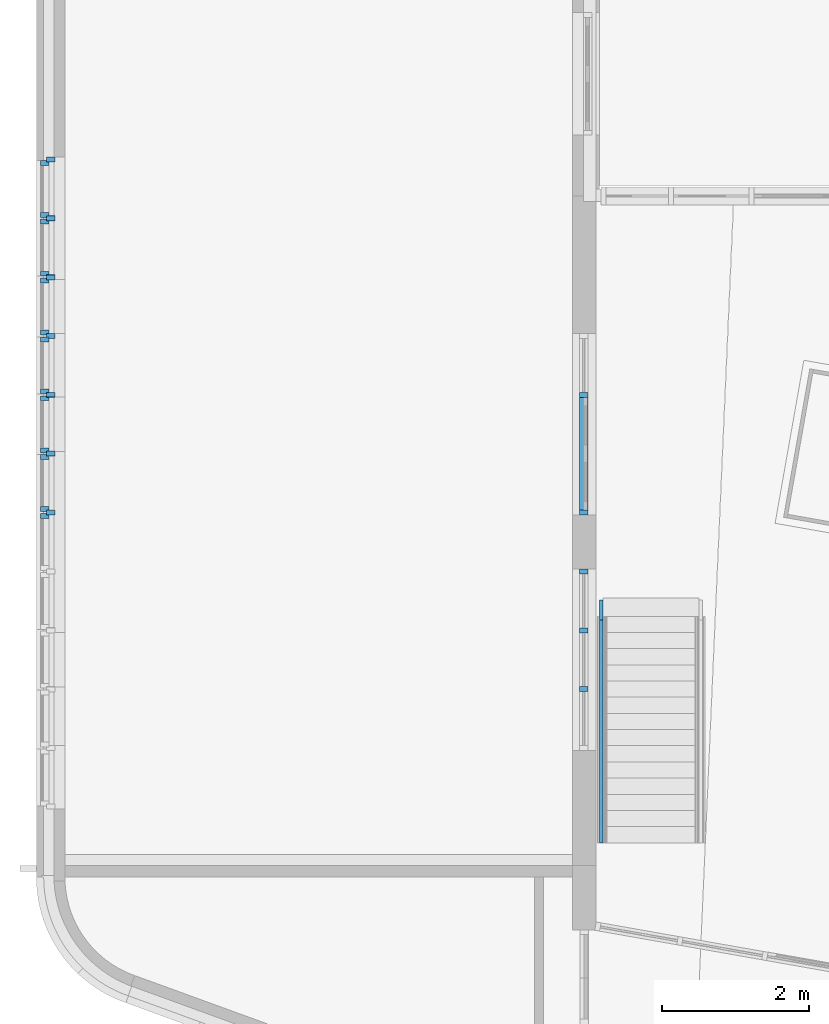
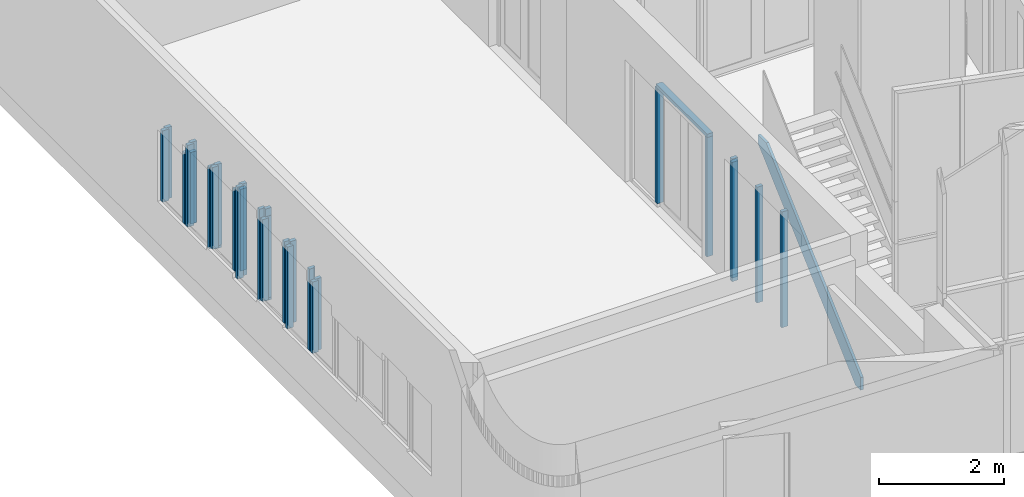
# One storey, part 4 of 21: 32 members, 16 elements without a shape of their own.
"""IFC2X3 building model written with IfcOpenShell, lengths in millimetres."""

from ifc_helpers import new_model, entity, si_unit, converted_unit, derived_unit, direction, frame, frame_2d, origin, origin_2d_with_axis, place, context, subcontext, project, spatial, polyline, rectangle, outline, extrude, source, transform, mapped, material, type_object, type_shapes, element, aggregate, save


model = new_model("IFC2X3")

# Units and contexts
model_context = context("Model", 3, precision=0.01, world=origin(), true_north=direction((6.12303176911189e-17, 1.0)))
body_context = subcontext(model_context, "Body", "Model", "MODEL_VIEW")
ifc_project = project(units=[si_unit("LENGTHUNIT", "METRE", prefix="MILLI"), si_unit("AREAUNIT", "SQUARE_METRE"), si_unit("VOLUMEUNIT", "CUBIC_METRE"), converted_unit("PLANEANGLEUNIT", "DEGREE", entity("IfcRatioMeasure", 0.0174532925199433), si_unit("PLANEANGLEUNIT", "RADIAN"), dimensions=[0, 0, 0, 0, 0, 0, 0]), si_unit("MASSUNIT", "GRAM", prefix="KILO"), derived_unit("MASSDENSITYUNIT", [(si_unit("MASSUNIT", "GRAM", prefix="KILO"), 1), (si_unit("LENGTHUNIT", "METRE"), -3)]), si_unit("TIMEUNIT", "SECOND"), si_unit("FREQUENCYUNIT", "HERTZ"), si_unit("THERMODYNAMICTEMPERATUREUNIT", "DEGREE_CELSIUS"), derived_unit("THERMALTRANSMITTANCEUNIT", [(si_unit("MASSUNIT", "GRAM", prefix="KILO"), 1), (si_unit("THERMODYNAMICTEMPERATUREUNIT", "KELVIN"), -1), (si_unit("TIMEUNIT", "SECOND"), -3)]), derived_unit("VOLUMETRICFLOWRATEUNIT", [(si_unit("LENGTHUNIT", "METRE"), 3), (si_unit("TIMEUNIT", "SECOND"), -1)]), si_unit("ELECTRICCURRENTUNIT", "AMPERE"), si_unit("ELECTRICVOLTAGEUNIT", "VOLT"), si_unit("POWERUNIT", "WATT"), si_unit("FORCEUNIT", "NEWTON", prefix="KILO"), si_unit("ILLUMINANCEUNIT", "LUX"), si_unit("LUMINOUSFLUXUNIT", "LUMEN"), si_unit("LUMINOUSINTENSITYUNIT", "CANDELA"), derived_unit("USERDEFINED", [(si_unit("MASSUNIT", "GRAM", prefix="KILO"), -1), (si_unit("LENGTHUNIT", "METRE"), -2), (si_unit("TIMEUNIT", "SECOND"), 3), (si_unit("LUMINOUSFLUXUNIT", "LUMEN"), 1)]), derived_unit("LINEARVELOCITYUNIT", [(si_unit("LENGTHUNIT", "METRE"), 1), (si_unit("TIMEUNIT", "SECOND"), -1)]), si_unit("PRESSUREUNIT", "PASCAL"), derived_unit("USERDEFINED", [(si_unit("LENGTHUNIT", "METRE"), -2), (si_unit("MASSUNIT", "GRAM", prefix="KILO"), 1), (si_unit("TIMEUNIT", "SECOND"), -2)])], contexts=[model_context])

# Site, building, storey
site_placement = place(None, origin())
site = spatial("IfcSite", under=ifc_project, at=site_placement, Name="<Kadaster Gemeente>;<Kadaster nummer>;<Kadaster sectie>", CompositionType="ELEMENT")
building_placement = place(site_placement, origin())
building = spatial("IfcBuilding", under=site, at=building_placement, Name="JRCZ Middelburg", CompositionType="ELEMENT")
storey_placement = place(building_placement, origin())
storey = spatial("IfcBuildingStorey", under=building, at=storey_placement, Name="00 begane grond", CompositionType="ELEMENT", Elevation=0.0)

# Stair, member
stair_placement = place(storey_placement, origin())
stair = element("IfcStair", 1, at=stair_placement, inside=storey, Name="Assembled Stair:Stair", ObjectType="Assembled Stair:RBM_ST_houten trap", ShapeType="NOTDEFINED")
ifc_material_1 = material(Name="traphout")
member_type_1 = type_object("IfcMemberType", Name="Stringer:RBM_trapboom hout_300x50", PredefinedType="STRINGER")
member_1_placement = place(stair_placement, origin())
member_1 = element("IfcMember", 2, at=member_1_placement, type_object=member_type_1, material=ifc_material_1, Name="Assembled Stair:Stair:1742392 Stringer 1", ObjectType="Stringer:RBM_trapboom hout_300x50", context=body_context, shape_type="SweptSolid", body=[
    extrude(outline(polyline([(-1634.54613854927, -1514.04896495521), (-1457.9166916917, -1514.04896495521), (1665.45386145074, 1325.37881062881), (1665.45386145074, 1485.95103504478), (1396.10124588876, 1485.95103504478), (-1634.54613854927, -1269.18295080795), (-1634.54613854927, -1514.04896495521)])), frame((17418.0, 11945.153090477, 1514.04896495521), z_axis=(1.0, 0.0, 0.0), x_axis=(0.0, 1.0, 0.0)), (0.0, 0.0, 1.0), 49.9999999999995),
])
aggregate(stair, [member_1])

# Curtain wall, members
curtain_wall_type_1 = type_object("IfcCurtainWallType", Name="Curtain Wall:NLRS_32_CW_067x114", PredefinedType="NOTDEFINED")
curtain_wall_1_placement = place(storey_placement, origin())
curtain_wall_1 = element("IfcCurtainWall", 3, at=curtain_wall_1_placement, inside=storey, type_object=curtain_wall_type_1, Name="Curtain Wall:NLRS_32_CW_067x114", ObjectType="Curtain Wall:NLRS_32_CW_067x114")
ifc_material_2 = material(Name="RBM_i2_binnenkozijn")
member_type_2 = type_object("IfcMemberType", Name="32_CWM_067x114", PredefinedType="MEMBER")
shared_shape_1 = source(origin(), body_context, "Body", "SweptSolid", [
    extrude(rectangle(XDim=113.999999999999, YDim=67.0, at=origin_2d_with_axis()), frame((-33.5, 0.0, -2400.0), z_axis=(0.0, 0.0, 1.0), x_axis=(0.0, -1.0, 0.0)), (0.0, 0.0, 1.0), 2400.0),
])
type_shapes(member_type_2, [shared_shape_1])
member_2_placement = place(storey_placement, frame((17203.0, 14033.4999996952, 0.0), z_axis=(0.0, 0.0, -1.0), x_axis=(0.0, 1.0, 0.0)))
member_2 = element("IfcMember", 4, at=member_2_placement, type_object=member_type_2, material=ifc_material_2, Name="Rectangular Mullion:32_CWM_067x114", ObjectType="Rectangular Mullion:32_CWM_067x114", context=body_context, shape_type="MappedRepresentation", body=[
    mapped(shared_shape_1, transform((0.0, 0.0, 0.0), scale=1.0)),
])
member_type_3 = type_object("IfcMemberType", Name="32_CWM_067x114", PredefinedType="MEMBER")
shared_shape_2 = source(origin(), body_context, "Body", "SweptSolid", [
    extrude(rectangle(XDim=113.999999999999, YDim=67.0, at=origin_2d_with_axis()), frame((0.0, 0.0, -2266.0), z_axis=(0.0, 0.0, 1.0), x_axis=(0.0, -1.0, 0.0)), (0.0, 0.0, 1.0), 2266.0),
])
type_shapes(member_type_3, [shared_shape_2])
member_3_placement = place(storey_placement, frame((17203.0, 12400.0, 67.0), z_axis=(0.0, 0.0, -1.0), x_axis=(0.0, 1.0, 0.0)))
member_3 = element("IfcMember", 5, at=member_3_placement, type_object=member_type_3, material=ifc_material_2, Name="Rectangular Mullion:32_CWM_067x114", ObjectType="Rectangular Mullion:32_CWM_067x114", context=body_context, shape_type="MappedRepresentation", body=[
    mapped(shared_shape_2, transform((0.0, 0.0, 0.0), scale=1.0)),
])
member_4_placement = place(storey_placement, frame((17203.0, 13200.0, 67.0), z_axis=(0.0, 0.0, -1.0), x_axis=(0.0, 1.0, 0.0)))
member_4 = element("IfcMember", 6, at=member_4_placement, type_object=member_type_3, material=ifc_material_2, Name="Rectangular Mullion:32_CWM_067x114", ObjectType="Rectangular Mullion:32_CWM_067x114", context=body_context, shape_type="MappedRepresentation", body=[
    mapped(shared_shape_2, transform((0.0, 0.0, 0.0), scale=1.0)),
])
member_5_placement = place(storey_placement, frame((17203.0, 14000.0, 67.0), z_axis=(0.0, 0.0, -1.0), x_axis=(0.0, 1.0, 0.0)))
member_5 = element("IfcMember", 7, at=member_5_placement, type_object=member_type_3, material=ifc_material_2, Name="Rectangular Mullion:32_CWM_067x114", ObjectType="Rectangular Mullion:32_CWM_067x114", context=body_context, shape_type="MappedRepresentation", body=[
    mapped(shared_shape_2, transform((0.0, 0.0, 0.0), scale=1.0)),
])
aggregate(curtain_wall_1, [member_2, member_3, member_4, member_5])

curtain_wall_2_placement = place(storey_placement, origin())
curtain_wall_2 = element("IfcCurtainWall", 8, at=curtain_wall_2_placement, inside=storey, type_object=curtain_wall_type_1, Name="Curtain Wall:NLRS_32_CW_067x114", ObjectType="Curtain Wall:NLRS_32_CW_067x114")
member_type_4 = type_object("IfcMemberType", Name="32_CWM_067x114", PredefinedType="MEMBER")
shared_shape_3 = source(origin(), body_context, "Body", "SweptSolid", [
    extrude(rectangle(XDim=113.999999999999, YDim=67.0, at=origin_2d_with_axis()), frame((-33.5, 0.0, -1633.5000003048), z_axis=(0.0, 0.0, 1.0), x_axis=(0.0, -1.0, 0.0)), (0.0, 0.0, 1.0), 1633.5000003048),
])
type_shapes(member_type_4, [shared_shape_3])
member_6_placement = place(storey_placement, frame((17203.0, 16400.0, 2400.0), z_axis=(0.0, 1.0, 0.0), x_axis=(0.0, 0.0, 1.0)))
member_6 = element("IfcMember", 9, at=member_6_placement, type_object=member_type_4, material=ifc_material_2, Name="Rectangular Mullion:32_CWM_067x114", ObjectType="Rectangular Mullion:32_CWM_067x114", context=body_context, shape_type="MappedRepresentation", body=[
    mapped(shared_shape_3, transform((0.0, 0.0, 0.0), scale=1.0)),
])
member_type_5 = type_object("IfcMemberType", Name="32_CWM_067x114", PredefinedType="MEMBER")
shared_shape_4 = source(origin(), body_context, "Body", "SweptSolid", [
    extrude(rectangle(XDim=113.999999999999, YDim=67.0, at=origin_2d_with_axis()), frame((-33.5, 0.0, -2333.0), z_axis=(0.0, 0.0, 1.0), x_axis=(0.0, -1.0, 0.0)), (0.0, 0.0, 1.0), 2333.0),
])
type_shapes(member_type_5, [shared_shape_4])
member_7_placement = place(storey_placement, frame((17203.0, 14766.4999996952, 2333.0), z_axis=(0.0, 0.0, 1.0), x_axis=(0.0, -1.0, 0.0)))
member_7 = element("IfcMember", 10, at=member_7_placement, type_object=member_type_5, material=ifc_material_2, Name="Rectangular Mullion:32_CWM_067x114", ObjectType="Rectangular Mullion:32_CWM_067x114", context=body_context, shape_type="MappedRepresentation", body=[
    mapped(shared_shape_4, transform((0.0, 0.0, 0.0), scale=1.0)),
])
member_type_6 = type_object("IfcMemberType", Name="32_CWM_067x114", PredefinedType="MEMBER")
shared_shape_5 = source(origin(), body_context, "Body", "SweptSolid", [
    extrude(rectangle(XDim=113.999999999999, YDim=67.0, at=origin_2d_with_axis()), frame((0.0, 0.0, -2266.0), z_axis=(0.0, 0.0, 1.0), x_axis=(0.0, -1.0, 0.0)), (0.0, 0.0, 1.0), 2266.0),
])
type_shapes(member_type_6, [shared_shape_5])
member_8_placement = place(storey_placement, frame((17203.0, 16400.0, 67.0), z_axis=(0.0, 0.0, -1.0), x_axis=(0.0, 1.0, 0.0)))
member_8 = element("IfcMember", 11, at=member_8_placement, type_object=member_type_6, material=ifc_material_2, Name="Rectangular Mullion:32_CWM_067x114", ObjectType="Rectangular Mullion:32_CWM_067x114", context=body_context, shape_type="MappedRepresentation", body=[
    mapped(shared_shape_5, transform((0.0, 0.0, 0.0), scale=1.0)),
])
aggregate(curtain_wall_2, [member_6, member_7, member_8])

curtain_wall_type_2 = type_object("IfcCurtainWallType", Name="Curtain Wall:NLRS_31_CW_Ontwerpkozijn 067x114 2", PredefinedType="NOTDEFINED")
curtain_wall_3_placement = place(storey_placement, origin())
curtain_wall_3 = element("IfcCurtainWall", 12, at=curtain_wall_3_placement, inside=storey, type_object=curtain_wall_type_2, Name="Curtain Wall:NLRS_31_CW_Ontwerpkozijn 067x114 2", ObjectType="Curtain Wall:NLRS_31_CW_Ontwerpkozijn 067x114 2")
ifc_material_3 = material(Name="RBM_a_kozijn")
member_type_7 = type_object("IfcMemberType", Name="31_CWM_067x114", PredefinedType="MEMBER")
shared_shape_6 = source(origin(), body_context, "Body", "SweptSolid", [
    extrude(outline(polyline([(-37.0, -65.3333333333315), (30.0, -65.3333333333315), (30.0, 16.6666666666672), (7.0, 16.6666666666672), (7.0, 48.6666666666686), (-37.0, 48.6666666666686), (-37.0, -65.3333333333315)])), frame((9882.3333333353, 14842.4999999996, 700.0), z_axis=(0.0, 0.0, 1.0), x_axis=(0.0, -1.0, 0.0)), (0.0, 0.0, 1.0), 1600.0),
])
type_shapes(member_type_7, [shared_shape_6])
member_9_placement = place(storey_placement, origin())
member_9 = element("IfcMember", 13, at=member_9_placement, type_object=member_type_7, material=ifc_material_3, Name="Rectangular Mullion:31_CWM_067x114", ObjectType="Rectangular Mullion:31_CWM_067x114", context=body_context, shape_type="MappedRepresentation", body=[
    mapped(shared_shape_6, transform((0.0, 0.0, 0.0), scale=1.0)),
])
member_type_8 = type_object("IfcMemberType", Name="31_CWM_067x114", PredefinedType="MEMBER")
shared_shape_7 = source(origin(), body_context, "Body", "SweptSolid", [
    extrude(outline(polyline([(-30.0, -65.3333333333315), (37.0, -65.3333333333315), (37.0, 48.6666666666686), (-7.0, 48.6666666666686), (-7.0, 16.6666666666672), (-30.0, 16.6666666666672), (-30.0, -65.3333333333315)])), frame((9882.33333333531, 15557.4999999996, 700.0), z_axis=(0.0, 0.0, 1.0), x_axis=(0.0, -1.0, 0.0)), (0.0, 0.0, 1.0), 1600.0),
])
type_shapes(member_type_8, [shared_shape_7])
member_10_placement = place(storey_placement, origin())
member_10 = element("IfcMember", 14, at=member_10_placement, type_object=member_type_8, material=ifc_material_3, Name="Rectangular Mullion:31_CWM_067x114", ObjectType="Rectangular Mullion:31_CWM_067x114", context=body_context, shape_type="MappedRepresentation", body=[
    mapped(shared_shape_7, transform((0.0, 0.0, 0.0), scale=1.0)),
])
aggregate(curtain_wall_3, [member_9, member_10])

# Curtain wall, member
curtain_wall_type_3 = type_object("IfcCurtainWallType", Name="Curtain Wall:NLRS_31_CW_hsb rek 63x196mm h.o.h. 800mm", PredefinedType="NOTDEFINED")
curtain_wall_4_placement = place(storey_placement, origin())
curtain_wall_4 = element("IfcCurtainWall", 15, at=curtain_wall_4_placement, inside=storey, type_object=curtain_wall_type_3, Name="Curtain Wall:NLRS_31_CW_hsb rek 63x196mm h.o.h. 800mm", ObjectType="Curtain Wall:NLRS_31_CW_hsb rek 63x196mm h.o.h. 800mm")
member_type_9 = type_object("IfcMemberType", Name="32_CWM_067x114", PredefinedType="MEMBER")
shared_shape_8 = source(origin(), body_context, "Body", "SweptSolid", [
    extrude(rectangle(XDim=66.9999999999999, YDim=114.0, at=frame_2d((1.08357767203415e-12, 1.08002495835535e-12), x_axis=(1.0, 0.0))), frame((9956.0, 14798.0, 700.0), z_axis=(0.0, 0.0, 1.0), x_axis=(0.0, -1.0, 0.0)), (0.0, 0.0, 1.0), 1400.0),
])
type_shapes(member_type_9, [shared_shape_8])
member_11_placement = place(storey_placement, origin())
member_11 = element("IfcMember", 16, at=member_11_placement, type_object=member_type_9, material=ifc_material_2, Name="Rectangular Mullion:32_CWM_067x114", ObjectType="Rectangular Mullion:32_CWM_067x114", context=body_context, shape_type="MappedRepresentation", body=[
    mapped(shared_shape_8, transform((0.0, 0.0, 0.0), scale=1.0)),
])
aggregate(curtain_wall_4, [member_11])

curtain_wall_5_placement = place(storey_placement, origin())
curtain_wall_5 = element("IfcCurtainWall", 17, at=curtain_wall_5_placement, inside=storey, type_object=curtain_wall_type_2, Name="Curtain Wall:NLRS_31_CW_Ontwerpkozijn 067x114 2", ObjectType="Curtain Wall:NLRS_31_CW_Ontwerpkozijn 067x114 2")
member_type_10 = type_object("IfcMemberType", Name="31_CWM_067x114", PredefinedType="MEMBER")
shared_shape_9 = source(origin(), body_context, "Body", "SweptSolid", [
    extrude(outline(polyline([(-30.0, -65.3333333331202), (37.0, -65.3333333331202), (37.0, 48.6666666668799), (-7.0, 48.6666666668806), (-7.0, 16.6666666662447), (-30.0, 16.6666666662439), (-30.0, -65.3333333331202)])), frame((9882.33333333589, 14757.4999999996, 700.0), z_axis=(0.0, 0.0, 1.0), x_axis=(0.0, -1.0, 0.0)), (0.0, 0.0, 1.0), 1400.0),
])
type_shapes(member_type_10, [shared_shape_9])
member_12_placement = place(storey_placement, origin())
member_12 = element("IfcMember", 18, at=member_12_placement, type_object=member_type_10, material=ifc_material_3, Name="Rectangular Mullion:31_CWM_067x114", ObjectType="Rectangular Mullion:31_CWM_067x114", context=body_context, shape_type="MappedRepresentation", body=[
    mapped(shared_shape_9, transform((0.0, 0.0, 0.0), scale=1.0)),
])
aggregate(curtain_wall_5, [member_12])

# Curtain wall, members
curtain_wall_6_placement = place(storey_placement, origin())
curtain_wall_6 = element("IfcCurtainWall", 19, at=curtain_wall_6_placement, inside=storey, type_object=curtain_wall_type_3, Name="Curtain Wall:NLRS_31_CW_hsb rek 63x196mm h.o.h. 800mm", ObjectType="Curtain Wall:NLRS_31_CW_hsb rek 63x196mm h.o.h. 800mm")
member_type_11 = type_object("IfcMemberType", Name="32_CWM_067x114", PredefinedType="MEMBER")
shared_shape_10 = source(origin(), body_context, "Body", "SweptSolid", [
    extrude(rectangle(XDim=66.9999999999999, YDim=114.0, at=frame_2d((1.08002495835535e-12, 0.0), x_axis=(1.0, 0.0))), frame((9956.0, 16398.0, 750.0), z_axis=(0.0, 0.0, 1.0), x_axis=(0.0, -1.0, 0.0)), (0.0, 0.0, 1.0), 1600.0),
])
type_shapes(member_type_11, [shared_shape_10])
member_13_placement = place(storey_placement, origin())
member_13 = element("IfcMember", 20, at=member_13_placement, type_object=member_type_11, material=ifc_material_2, Name="Rectangular Mullion:32_CWM_067x114", ObjectType="Rectangular Mullion:32_CWM_067x114", context=body_context, shape_type="MappedRepresentation", body=[
    mapped(shared_shape_10, transform((0.0, 0.0, 0.0), scale=1.0)),
])
member_type_12 = type_object("IfcMemberType", Name="32_CWM_067x114", PredefinedType="MEMBER")
shared_shape_11 = source(origin(), body_context, "Body", "SweptSolid", [
    extrude(rectangle(XDim=67.0000000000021, YDim=114.0, at=frame_2d((-1.08357767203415e-12, 0.0), x_axis=(1.0, 0.0))), frame((9956.0, 15602.0, 750.0), z_axis=(0.0, 0.0, 1.0), x_axis=(0.0, -1.0, 0.0)), (0.0, 0.0, 1.0), 1600.0),
])
type_shapes(member_type_12, [shared_shape_11])
member_14_placement = place(storey_placement, origin())
member_14 = element("IfcMember", 21, at=member_14_placement, type_object=member_type_12, material=ifc_material_2, Name="Rectangular Mullion:32_CWM_067x114", ObjectType="Rectangular Mullion:32_CWM_067x114", context=body_context, shape_type="MappedRepresentation", body=[
    mapped(shared_shape_11, transform((0.0, 0.0, 0.0), scale=1.0)),
])
aggregate(curtain_wall_6, [member_13, member_14])

curtain_wall_7_placement = place(storey_placement, origin())
curtain_wall_7 = element("IfcCurtainWall", 22, at=curtain_wall_7_placement, inside=storey, type_object=curtain_wall_type_2, Name="Curtain Wall:NLRS_31_CW_Ontwerpkozijn 067x114 2", ObjectType="Curtain Wall:NLRS_31_CW_Ontwerpkozijn 067x114 2")
member_type_13 = type_object("IfcMemberType", Name="31_CWM_067x114", PredefinedType="MEMBER")
shared_shape_12 = source(origin(), body_context, "Body", "SweptSolid", [
    extrude(outline(polyline([(-37.0, -65.333333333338), (30.0, -65.333333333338), (30.0, 16.666666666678), (7.0, 16.666666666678), (7.0, 48.6666666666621), (-37.0, 48.6666666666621), (-37.0, -65.333333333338)])), frame((9882.33333333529, 15642.4999999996, 750.0), z_axis=(0.0, 0.0, 1.0), x_axis=(0.0, -1.0, 0.0)), (0.0, 0.0, 1.0), 1600.0),
])
type_shapes(member_type_13, [shared_shape_12])
member_15_placement = place(storey_placement, origin())
member_15 = element("IfcMember", 23, at=member_15_placement, type_object=member_type_13, material=ifc_material_3, Name="Rectangular Mullion:31_CWM_067x114", ObjectType="Rectangular Mullion:31_CWM_067x114", context=body_context, shape_type="MappedRepresentation", body=[
    mapped(shared_shape_12, transform((0.0, 0.0, 0.0), scale=1.0)),
])
member_type_14 = type_object("IfcMemberType", Name="31_CWM_067x114", PredefinedType="MEMBER")
shared_shape_13 = source(origin(), body_context, "Body", "SweptSolid", [
    extrude(outline(polyline([(-30.0, -65.333333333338), (37.0, -65.333333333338), (37.0, 48.6666666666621), (-7.0, 48.6666666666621), (-7.0, 16.666666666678), (-30.0, 16.666666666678), (-30.0, -65.333333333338)])), frame((9882.3333333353, 16357.4999999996, 750.0), z_axis=(0.0, 0.0, 1.0), x_axis=(0.0, -1.0, 0.0)), (0.0, 0.0, 1.0), 1600.0),
])
type_shapes(member_type_14, [shared_shape_13])
member_16_placement = place(storey_placement, origin())
member_16 = element("IfcMember", 24, at=member_16_placement, type_object=member_type_14, material=ifc_material_3, Name="Rectangular Mullion:31_CWM_067x114", ObjectType="Rectangular Mullion:31_CWM_067x114", context=body_context, shape_type="MappedRepresentation", body=[
    mapped(shared_shape_13, transform((0.0, 0.0, 0.0), scale=1.0)),
])
aggregate(curtain_wall_7, [member_15, member_16])

curtain_wall_8_placement = place(storey_placement, origin())
curtain_wall_8 = element("IfcCurtainWall", 25, at=curtain_wall_8_placement, inside=storey, type_object=curtain_wall_type_3, Name="Curtain Wall:NLRS_31_CW_hsb rek 63x196mm h.o.h. 800mm", ObjectType="Curtain Wall:NLRS_31_CW_hsb rek 63x196mm h.o.h. 800mm")
member_type_15 = type_object("IfcMemberType", Name="32_CWM_067x114", PredefinedType="MEMBER")
shared_shape_14 = source(origin(), body_context, "Body", "SweptSolid", [
    extrude(rectangle(XDim=66.9999999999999, YDim=114.0, at=frame_2d((1.08357767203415e-12, 1.08002495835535e-12), x_axis=(1.0, 0.0))), frame((9956.0, 17198.0, 700.0), z_axis=(0.0, 0.0, 1.0), x_axis=(0.0, -1.0, 0.0)), (0.0, 0.0, 1.0), 1800.0),
])
type_shapes(member_type_15, [shared_shape_14])
member_17_placement = place(storey_placement, origin())
member_17 = element("IfcMember", 26, at=member_17_placement, type_object=member_type_15, material=ifc_material_2, Name="Rectangular Mullion:32_CWM_067x114", ObjectType="Rectangular Mullion:32_CWM_067x114", context=body_context, shape_type="MappedRepresentation", body=[
    mapped(shared_shape_14, transform((0.0, 0.0, 0.0), scale=1.0)),
])
member_type_16 = type_object("IfcMemberType", Name="32_CWM_067x114", PredefinedType="MEMBER")
shared_shape_15 = source(origin(), body_context, "Body", "SweptSolid", [
    extrude(rectangle(XDim=66.9999999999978, YDim=114.0, at=frame_2d((1.08357767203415e-12, 1.08002495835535e-12), x_axis=(1.0, 0.0))), frame((9956.0, 16402.0, 700.0), z_axis=(0.0, 0.0, 1.0), x_axis=(0.0, -1.0, 0.0)), (0.0, 0.0, 1.0), 1800.0),
])
type_shapes(member_type_16, [shared_shape_15])
member_18_placement = place(storey_placement, origin())
member_18 = element("IfcMember", 27, at=member_18_placement, type_object=member_type_16, material=ifc_material_2, Name="Rectangular Mullion:32_CWM_067x114", ObjectType="Rectangular Mullion:32_CWM_067x114", context=body_context, shape_type="MappedRepresentation", body=[
    mapped(shared_shape_15, transform((0.0, 0.0, 0.0), scale=1.0)),
])
aggregate(curtain_wall_8, [member_17, member_18])

curtain_wall_9_placement = place(storey_placement, origin())
curtain_wall_9 = element("IfcCurtainWall", 28, at=curtain_wall_9_placement, inside=storey, type_object=curtain_wall_type_2, Name="Curtain Wall:NLRS_31_CW_Ontwerpkozijn 067x114 2", ObjectType="Curtain Wall:NLRS_31_CW_Ontwerpkozijn 067x114 2")
member_type_17 = type_object("IfcMemberType", Name="31_CWM_067x114", PredefinedType="MEMBER")
shared_shape_16 = source(origin(), body_context, "Body", "SweptSolid", [
    extrude(rectangle(XDim=66.9999999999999, YDim=114.0, at=frame_2d((0.0, 1.08002495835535e-12), x_axis=(1.0, 0.0))), frame((9874.0, 16446.0, 700.0), z_axis=(0.0, 0.0, 1.0), x_axis=(0.0, -1.0, 0.0)), (0.0, 0.0, 1.0), 1800.0),
])
type_shapes(member_type_17, [shared_shape_16])
member_19_placement = place(storey_placement, origin())
member_19 = element("IfcMember", 29, at=member_19_placement, type_object=member_type_17, material=ifc_material_3, Name="Rectangular Mullion:31_CWM_067x114", ObjectType="Rectangular Mullion:31_CWM_067x114", context=body_context, shape_type="MappedRepresentation", body=[
    mapped(shared_shape_16, transform((0.0, 0.0, 0.0), scale=1.0)),
])
member_type_18 = type_object("IfcMemberType", Name="31_CWM_067x114", PredefinedType="MEMBER")
shared_shape_17 = source(origin(), body_context, "Body", "SweptSolid", [
    extrude(rectangle(XDim=66.9999999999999, YDim=114.0, at=frame_2d((0.0, 1.08002495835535e-12), x_axis=(1.0, 0.0))), frame((9874.0, 17154.0, 700.0), z_axis=(0.0, 0.0, 1.0), x_axis=(0.0, -1.0, 0.0)), (0.0, 0.0, 1.0), 1800.0),
])
type_shapes(member_type_18, [shared_shape_17])
member_20_placement = place(storey_placement, origin())
member_20 = element("IfcMember", 30, at=member_20_placement, type_object=member_type_18, material=ifc_material_3, Name="Rectangular Mullion:31_CWM_067x114", ObjectType="Rectangular Mullion:31_CWM_067x114", context=body_context, shape_type="MappedRepresentation", body=[
    mapped(shared_shape_17, transform((0.0, 0.0, 0.0), scale=1.0)),
])
aggregate(curtain_wall_9, [member_19, member_20])

curtain_wall_10_placement = place(storey_placement, origin())
curtain_wall_10 = element("IfcCurtainWall", 31, at=curtain_wall_10_placement, inside=storey, type_object=curtain_wall_type_3, Name="Curtain Wall:NLRS_31_CW_hsb rek 63x196mm h.o.h. 800mm", ObjectType="Curtain Wall:NLRS_31_CW_hsb rek 63x196mm h.o.h. 800mm")
member_type_19 = type_object("IfcMemberType", Name="32_CWM_067x114", PredefinedType="MEMBER")
shared_shape_18 = source(origin(), body_context, "Body", "SweptSolid", [
    extrude(rectangle(XDim=66.9999999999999, YDim=114.0, at=frame_2d((1.08002495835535e-12, 0.0), x_axis=(1.0, 0.0))), frame((9956.0, 18798.0, 750.0), z_axis=(0.0, 0.0, 1.0), x_axis=(0.0, -1.0, 0.0)), (0.0, 0.0, 1.0), 1600.0),
])
type_shapes(member_type_19, [shared_shape_18])
member_21_placement = place(storey_placement, origin())
member_21 = element("IfcMember", 32, at=member_21_placement, type_object=member_type_19, material=ifc_material_2, Name="Rectangular Mullion:32_CWM_067x114", ObjectType="Rectangular Mullion:32_CWM_067x114", context=body_context, shape_type="MappedRepresentation", body=[
    mapped(shared_shape_18, transform((0.0, 0.0, 0.0), scale=1.0)),
])
member_type_20 = type_object("IfcMemberType", Name="32_CWM_067x114", PredefinedType="MEMBER")
shared_shape_19 = source(origin(), body_context, "Body", "SweptSolid", [
    extrude(rectangle(XDim=67.0000000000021, YDim=114.0, at=frame_2d((-1.08357767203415e-12, 0.0), x_axis=(1.0, 0.0))), frame((9956.0, 18002.0, 750.0), z_axis=(0.0, 0.0, 1.0), x_axis=(0.0, -1.0, 0.0)), (0.0, 0.0, 1.0), 1600.0),
])
type_shapes(member_type_20, [shared_shape_19])
member_22_placement = place(storey_placement, origin())
member_22 = element("IfcMember", 33, at=member_22_placement, type_object=member_type_20, material=ifc_material_2, Name="Rectangular Mullion:32_CWM_067x114", ObjectType="Rectangular Mullion:32_CWM_067x114", context=body_context, shape_type="MappedRepresentation", body=[
    mapped(shared_shape_19, transform((0.0, 0.0, 0.0), scale=1.0)),
])
aggregate(curtain_wall_10, [member_21, member_22])

curtain_wall_11_placement = place(storey_placement, origin())
curtain_wall_11 = element("IfcCurtainWall", 34, at=curtain_wall_11_placement, inside=storey, type_object=curtain_wall_type_2, Name="Curtain Wall:NLRS_31_CW_Ontwerpkozijn 067x114 2", ObjectType="Curtain Wall:NLRS_31_CW_Ontwerpkozijn 067x114 2")
member_type_21 = type_object("IfcMemberType", Name="31_CWM_067x114", PredefinedType="MEMBER")
shared_shape_20 = source(origin(), body_context, "Body", "SweptSolid", [
    extrude(outline(polyline([(-37.0, -65.333333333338), (30.0, -65.333333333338), (30.0, 16.666666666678), (7.0, 16.666666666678), (7.0, 48.6666666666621), (-37.0, 48.6666666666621), (-37.0, -65.333333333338)])), frame((9882.33333333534, 18042.4999999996, 750.0), z_axis=(0.0, 0.0, 1.0), x_axis=(0.0, -1.0, 0.0)), (0.0, 0.0, 1.0), 1600.0),
])
type_shapes(member_type_21, [shared_shape_20])
member_23_placement = place(storey_placement, origin())
member_23 = element("IfcMember", 35, at=member_23_placement, type_object=member_type_21, material=ifc_material_3, Name="Rectangular Mullion:31_CWM_067x114", ObjectType="Rectangular Mullion:31_CWM_067x114", context=body_context, shape_type="MappedRepresentation", body=[
    mapped(shared_shape_20, transform((0.0, 0.0, 0.0), scale=1.0)),
])
member_type_22 = type_object("IfcMemberType", Name="31_CWM_067x114", PredefinedType="MEMBER")
shared_shape_21 = source(origin(), body_context, "Body", "SweptSolid", [
    extrude(outline(polyline([(-30.0, -65.333333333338), (37.0, -65.333333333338), (37.0, 48.6666666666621), (-7.0, 48.6666666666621), (-7.0, 16.666666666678), (-30.0, 16.666666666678), (-30.0, -65.333333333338)])), frame((9882.33333333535, 18757.4999999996, 750.0), z_axis=(0.0, 0.0, 1.0), x_axis=(0.0, -1.0, 0.0)), (0.0, 0.0, 1.0), 1600.0),
])
type_shapes(member_type_22, [shared_shape_21])
member_24_placement = place(storey_placement, origin())
member_24 = element("IfcMember", 36, at=member_24_placement, type_object=member_type_22, material=ifc_material_3, Name="Rectangular Mullion:31_CWM_067x114", ObjectType="Rectangular Mullion:31_CWM_067x114", context=body_context, shape_type="MappedRepresentation", body=[
    mapped(shared_shape_21, transform((0.0, 0.0, 0.0), scale=1.0)),
])
aggregate(curtain_wall_11, [member_23, member_24])

curtain_wall_12_placement = place(storey_placement, origin())
curtain_wall_12 = element("IfcCurtainWall", 37, at=curtain_wall_12_placement, inside=storey, type_object=curtain_wall_type_3, Name="Curtain Wall:NLRS_31_CW_hsb rek 63x196mm h.o.h. 800mm", ObjectType="Curtain Wall:NLRS_31_CW_hsb rek 63x196mm h.o.h. 800mm")
member_type_23 = type_object("IfcMemberType", Name="32_CWM_067x114", PredefinedType="MEMBER")
shared_shape_22 = source(origin(), body_context, "Body", "SweptSolid", [
    extrude(rectangle(XDim=67.0000000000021, YDim=114.0, at=frame_2d((4.33075797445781e-12, 1.08002495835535e-12), x_axis=(1.0, 0.0))), frame((9956.0, 19598.0, 750.0), z_axis=(0.0, 0.0, 1.0), x_axis=(0.0, -1.0, 0.0)), (0.0, 0.0, 1.0), 1400.0),
])
type_shapes(member_type_23, [shared_shape_22])
member_25_placement = place(storey_placement, origin())
member_25 = element("IfcMember", 38, at=member_25_placement, type_object=member_type_23, material=ifc_material_2, Name="Rectangular Mullion:32_CWM_067x114", ObjectType="Rectangular Mullion:32_CWM_067x114", context=body_context, shape_type="MappedRepresentation", body=[
    mapped(shared_shape_22, transform((0.0, 0.0, 0.0), scale=1.0)),
])
member_type_24 = type_object("IfcMemberType", Name="32_CWM_067x114", PredefinedType="MEMBER")
shared_shape_23 = source(origin(), body_context, "Body", "SweptSolid", [
    extrude(rectangle(XDim=66.9999999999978, YDim=114.0, at=frame_2d((1.08357767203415e-12, 1.08002495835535e-12), x_axis=(1.0, 0.0))), frame((9956.0, 18802.0, 750.0), z_axis=(0.0, 0.0, 1.0), x_axis=(0.0, -1.0, 0.0)), (0.0, 0.0, 1.0), 1400.0),
])
type_shapes(member_type_24, [shared_shape_23])
member_26_placement = place(storey_placement, origin())
member_26 = element("IfcMember", 39, at=member_26_placement, type_object=member_type_24, material=ifc_material_2, Name="Rectangular Mullion:32_CWM_067x114", ObjectType="Rectangular Mullion:32_CWM_067x114", context=body_context, shape_type="MappedRepresentation", body=[
    mapped(shared_shape_23, transform((0.0, 0.0, 0.0), scale=1.0)),
])
aggregate(curtain_wall_12, [member_25, member_26])

curtain_wall_13_placement = place(storey_placement, origin())
curtain_wall_13 = element("IfcCurtainWall", 40, at=curtain_wall_13_placement, inside=storey, type_object=curtain_wall_type_2, Name="Curtain Wall:NLRS_31_CW_Ontwerpkozijn 067x114 2", ObjectType="Curtain Wall:NLRS_31_CW_Ontwerpkozijn 067x114 2")
member_type_25 = type_object("IfcMemberType", Name="31_CWM_067x114", PredefinedType="MEMBER")
shared_shape_24 = source(origin(), body_context, "Body", "SweptSolid", [
    extrude(rectangle(XDim=66.9999999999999, YDim=114.0, at=frame_2d((1.08357767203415e-12, -1.08002495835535e-12), x_axis=(1.0, 0.0))), frame((9874.0, 18846.0, 750.0), z_axis=(0.0, 0.0, 1.0), x_axis=(0.0, -1.0, 0.0)), (0.0, 0.0, 1.0), 1400.0),
])
type_shapes(member_type_25, [shared_shape_24])
member_27_placement = place(storey_placement, origin())
member_27 = element("IfcMember", 41, at=member_27_placement, type_object=member_type_25, material=ifc_material_3, Name="Rectangular Mullion:31_CWM_067x114", ObjectType="Rectangular Mullion:31_CWM_067x114", context=body_context, shape_type="MappedRepresentation", body=[
    mapped(shared_shape_24, transform((0.0, 0.0, 0.0), scale=1.0)),
])
member_type_26 = type_object("IfcMemberType", Name="31_CWM_067x114", PredefinedType="MEMBER")
shared_shape_25 = source(origin(), body_context, "Body", "SweptSolid", [
    extrude(rectangle(XDim=67.0000000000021, YDim=114.0, at=frame_2d((-2.16360263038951e-12, 1.08002495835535e-12), x_axis=(1.0, 0.0))), frame((9874.0, 19554.0, 750.0), z_axis=(0.0, 0.0, 1.0), x_axis=(0.0, -1.0, 0.0)), (0.0, 0.0, 1.0), 1400.0),
])
type_shapes(member_type_26, [shared_shape_25])
member_28_placement = place(storey_placement, origin())
member_28 = element("IfcMember", 42, at=member_28_placement, type_object=member_type_26, material=ifc_material_3, Name="Rectangular Mullion:31_CWM_067x114", ObjectType="Rectangular Mullion:31_CWM_067x114", context=body_context, shape_type="MappedRepresentation", body=[
    mapped(shared_shape_25, transform((0.0, 0.0, 0.0), scale=1.0)),
])
aggregate(curtain_wall_13, [member_27, member_28])

curtain_wall_14_placement = place(storey_placement, origin())
curtain_wall_14 = element("IfcCurtainWall", 43, at=curtain_wall_14_placement, inside=storey, type_object=curtain_wall_type_3, Name="Curtain Wall:NLRS_31_CW_hsb rek 63x196mm h.o.h. 800mm", ObjectType="Curtain Wall:NLRS_31_CW_hsb rek 63x196mm h.o.h. 800mm")
member_type_27 = type_object("IfcMemberType", Name="32_CWM_067x114", PredefinedType="MEMBER")
shared_shape_26 = source(origin(), body_context, "Body", "SweptSolid", [
    extrude(rectangle(XDim=66.9999999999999, YDim=114.0, at=frame_2d((1.08002495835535e-12, 0.0), x_axis=(1.0, 0.0))), frame((9956.0, 17998.0, 800.0), z_axis=(0.0, 0.0, 1.0), x_axis=(0.0, -1.0, 0.0)), (0.0, 0.0, 1.0), 1600.0),
])
type_shapes(member_type_27, [shared_shape_26])
member_29_placement = place(storey_placement, origin())
member_29 = element("IfcMember", 44, at=member_29_placement, type_object=member_type_27, material=ifc_material_2, Name="Rectangular Mullion:32_CWM_067x114", ObjectType="Rectangular Mullion:32_CWM_067x114", context=body_context, shape_type="MappedRepresentation", body=[
    mapped(shared_shape_26, transform((0.0, 0.0, 0.0), scale=1.0)),
])
member_type_28 = type_object("IfcMemberType", Name="32_CWM_067x114", PredefinedType="MEMBER")
shared_shape_27 = source(origin(), body_context, "Body", "SweptSolid", [
    extrude(rectangle(XDim=67.0000000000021, YDim=114.0, at=frame_2d((-1.08357767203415e-12, 0.0), x_axis=(1.0, 0.0))), frame((9956.0, 17202.0, 800.0), z_axis=(0.0, 0.0, 1.0), x_axis=(0.0, -1.0, 0.0)), (0.0, 0.0, 1.0), 1600.0),
])
type_shapes(member_type_28, [shared_shape_27])
member_30_placement = place(storey_placement, origin())
member_30 = element("IfcMember", 45, at=member_30_placement, type_object=member_type_28, material=ifc_material_2, Name="Rectangular Mullion:32_CWM_067x114", ObjectType="Rectangular Mullion:32_CWM_067x114", context=body_context, shape_type="MappedRepresentation", body=[
    mapped(shared_shape_27, transform((0.0, 0.0, 0.0), scale=1.0)),
])
aggregate(curtain_wall_14, [member_29, member_30])

curtain_wall_15_placement = place(storey_placement, origin())
curtain_wall_15 = element("IfcCurtainWall", 46, at=curtain_wall_15_placement, inside=storey, type_object=curtain_wall_type_2, Name="Curtain Wall:NLRS_31_CW_Ontwerpkozijn 067x114 2", ObjectType="Curtain Wall:NLRS_31_CW_Ontwerpkozijn 067x114 2")
member_type_29 = type_object("IfcMemberType", Name="31_CWM_067x114", PredefinedType="MEMBER")
shared_shape_28 = source(origin(), body_context, "Body", "SweptSolid", [
    extrude(outline(polyline([(-37.0, -65.333333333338), (30.0, -65.333333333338), (30.0, 16.666666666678), (7.0, 16.666666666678), (7.0, 48.6666666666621), (-37.0, 48.6666666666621), (-37.0, -65.333333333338)])), frame((9882.33333333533, 17242.4999999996, 800.0), z_axis=(0.0, 0.0, 1.0), x_axis=(0.0, -1.0, 0.0)), (0.0, 0.0, 1.0), 1600.0),
])
type_shapes(member_type_29, [shared_shape_28])
member_31_placement = place(storey_placement, origin())
member_31 = element("IfcMember", 47, at=member_31_placement, type_object=member_type_29, material=ifc_material_3, Name="Rectangular Mullion:31_CWM_067x114", ObjectType="Rectangular Mullion:31_CWM_067x114", context=body_context, shape_type="MappedRepresentation", body=[
    mapped(shared_shape_28, transform((0.0, 0.0, 0.0), scale=1.0)),
])
member_type_30 = type_object("IfcMemberType", Name="31_CWM_067x114", PredefinedType="MEMBER")
shared_shape_29 = source(origin(), body_context, "Body", "SweptSolid", [
    extrude(outline(polyline([(-30.0, -65.333333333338), (37.0, -65.333333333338), (37.0, 48.6666666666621), (-7.0, 48.6666666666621), (-7.0, 16.666666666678), (-30.0, 16.666666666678), (-30.0, -65.333333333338)])), frame((9882.33333333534, 17957.4999999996, 800.0), z_axis=(0.0, 0.0, 1.0), x_axis=(0.0, -1.0, 0.0)), (0.0, 0.0, 1.0), 1600.0),
])
type_shapes(member_type_30, [shared_shape_29])
member_32_placement = place(storey_placement, origin())
member_32 = element("IfcMember", 48, at=member_32_placement, type_object=member_type_30, material=ifc_material_3, Name="Rectangular Mullion:31_CWM_067x114", ObjectType="Rectangular Mullion:31_CWM_067x114", context=body_context, shape_type="MappedRepresentation", body=[
    mapped(shared_shape_29, transform((0.0, 0.0, 0.0), scale=1.0)),
])
aggregate(curtain_wall_15, [member_31, member_32])

save(model, "model.ifc")
